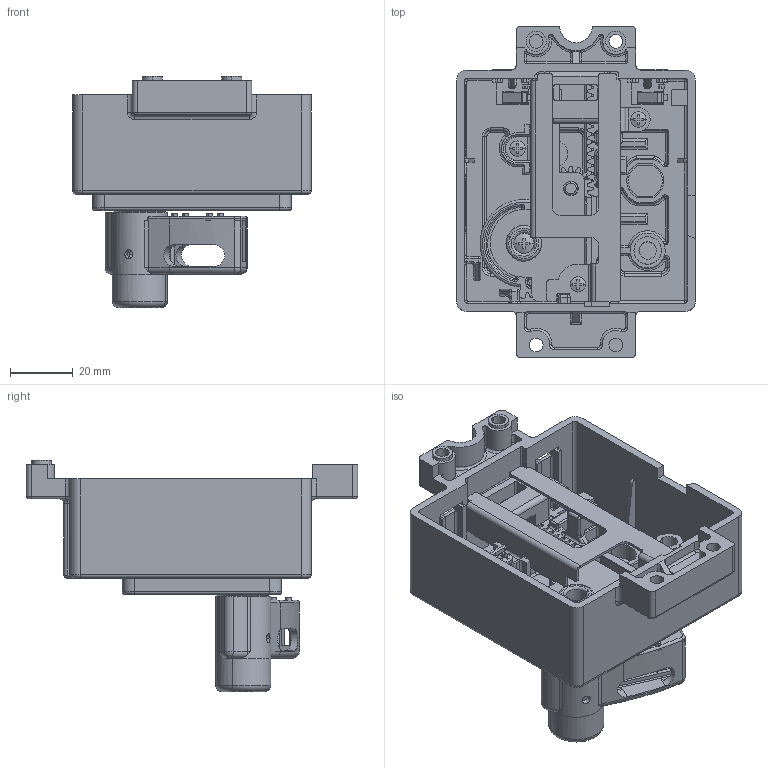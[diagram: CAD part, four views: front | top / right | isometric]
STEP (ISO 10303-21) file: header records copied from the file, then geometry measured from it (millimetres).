
FILE_DESCRIPTION((''),'2;1');
FILE_NAME('140U-H-RMX','2010-03-08T',('hssambar'),('Rockwell Automation'),'PRO/ENGINEER BY PARAMETRIC TECHNOLOGY CORPORATION, 2005110','PRO/ENGINEER BY PARAMETRIC TECHNOLOGY CORPORATION, 2005110','');
FILE_SCHEMA(('CONFIG_CONTROL_DESIGN'));
Products named in the file (1): 140U-H-RMX
Bounding box: 76.2 x 105.74 x 73.74 mm (x, y, z)
Volume: 80919.3 mm3; surface area: 62477.2 mm2
Topology: 1 solids, 1 shells, 2175 faces, 5726 edges, 3556 vertices
Faces by surface type: cylinder 1024, plane 761, torus 219, bspline 90, sphere 68, cone 13
Entity records: 71862 total; most frequent: CARTESIAN_POINT 16928, DIRECTION 12093, ORIENTED_EDGE 11452, EDGE_CURVE 5726, AXIS2_PLACEMENT_3D 4532, VERTEX_POINT 3556, VECTOR 3029, LINE 3029
